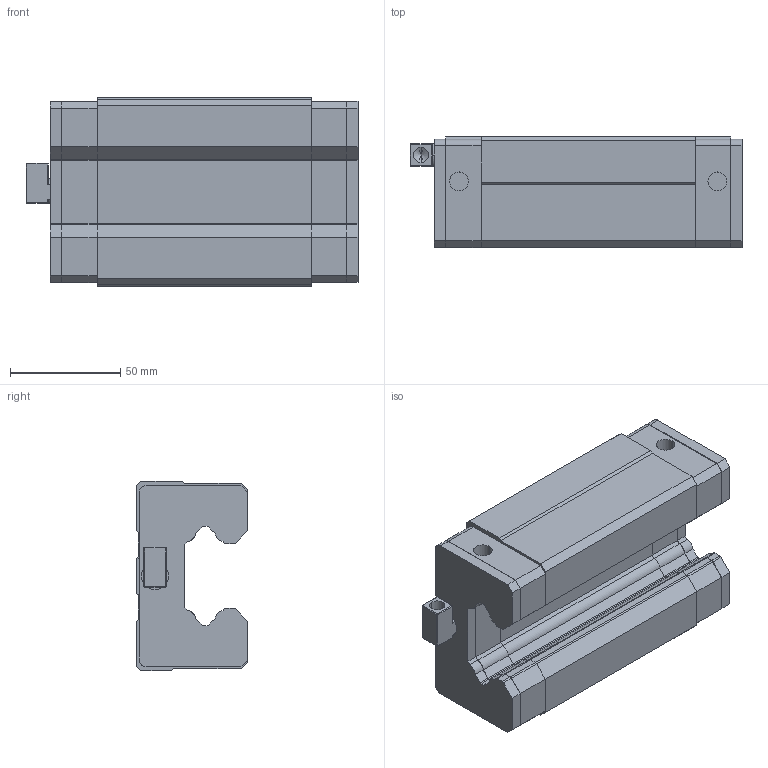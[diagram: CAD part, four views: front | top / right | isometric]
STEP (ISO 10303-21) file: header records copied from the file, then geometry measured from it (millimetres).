
FILE_DESCRIPTION (( 'STEP AP203' ), '1' );
FILE_NAME ('SGL45CA.STEP', '2025-06-27T05:32:57', ( 'Owner' ), ( 'Organization' ), 'SwSTEP 2.0', 'SolidWorks 2020', '' );
FILE_SCHEMA (( 'CONFIG_CONTROL_DESIGN' ));
Length unit declared in the file: millimetre
Products named in the file (1): SGL45CA
Bounding box: 150.4 x 50.5 x 86 mm (x, y, z)
Volume: 433638.5 mm3; surface area: 81884.9 mm2
Topology: 7 solids, 7 shells, 423 faces, 1080 edges, 679 vertices
Faces by surface type: plane 259, cylinder 114, cone 46, bspline 4
Entity records: 12683 total; most frequent: CARTESIAN_POINT 2311, DIRECTION 2144, ORIENTED_EDGE 2140, EDGE_CURVE 1070, VECTOR 768, LINE 768, AXIS2_PLACEMENT_3D 688, VERTEX_POINT 679
